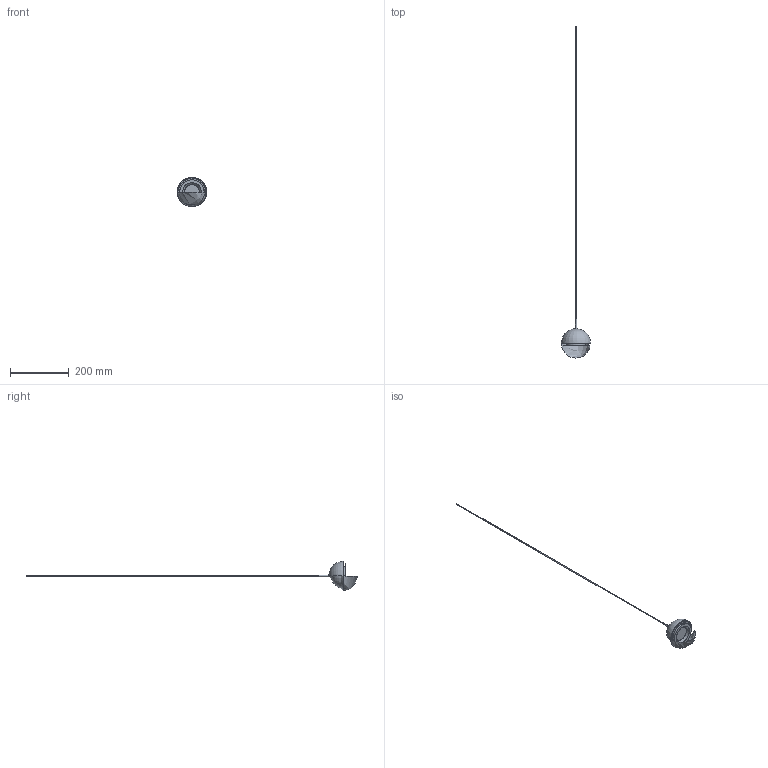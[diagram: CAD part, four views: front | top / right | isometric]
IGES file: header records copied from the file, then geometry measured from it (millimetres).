
Start section: SolidWorks IGES file using analytic representation for surfaces
Global section: file name: C:\Users\Agus\Desktop\enero 2021- novedades\CONO + CUPULA\C1275.IGS; native system: SolidWorks 2018; preprocessor: SolidWorks 2018; author: Agus; date: 201130.172258; units: millimetre
Bounding box: 100.03 x 1135 x 100 mm (x, y, z)
Surface area: 68211.1 mm2 (no closed solid volume)
Topology: 0 solids, 0 shells, 30 faces, 868 edges, 865 vertices
Faces by surface type: revolution 20, bspline 10
